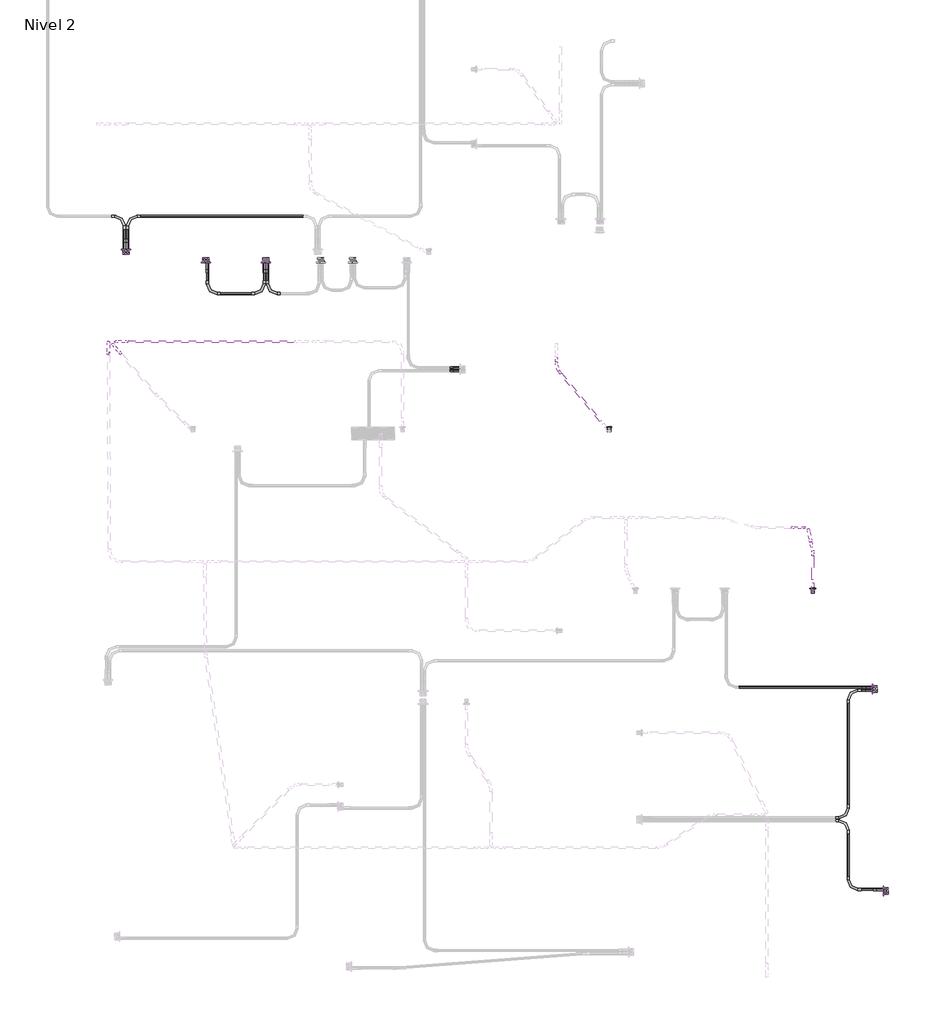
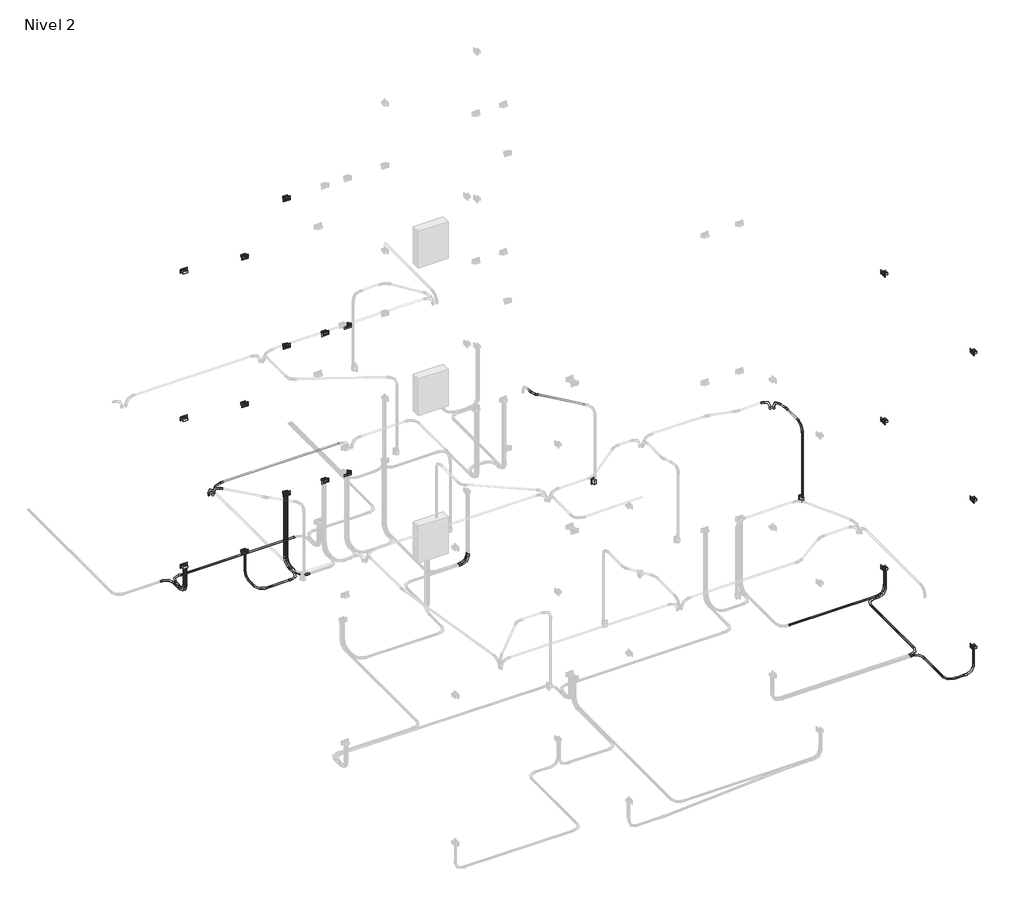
# One storey, part 5 of 10: 27 cable carrier fittings, 26 cable carrier segments, 19 proxies, 2 switching devices.
"""IFC4 building model written with IfcOpenShell, lengths in millimetres."""

from ifc_helpers import new_model, si_unit, point, frame, frame_2d, origin, place, context, project, spatial, circle_curve, trimmed, segment, composite_curve, outline, extrude, transform, mapped, element, save
from components import gfci_180f1b41, m_codo_de_tubo_extremo_liso_pvc_9da73e12, m_codo_de_tubo_extremo_liso_pvc_102f0f41, m_codo_de_tubo_extremo_liso_pvc_2c15a8ce, m_codo_de_tubo_extremo_liso_pvc_b46efc4b, switching_device_22fed34b

model = new_model("IFC4")

# Units and contexts
model_context = context("Model", 3, world=origin())
ifc_project = project(units=[si_unit("LENGTHUNIT", "METRE", prefix="MILLI")], contexts=[model_context])

# Site, building, storey
site = spatial("IfcSite", under=ifc_project)
building = spatial("IfcBuilding", under=site)
storey = spatial("IfcBuildingStorey", under=building, Name="Nivel 2", Elevation=2800.0)

# Proxies
placement = place(None, origin())
gfci_shape = gfci_180f1b41(model_context)
element("IfcBuildingElementProxy", 1, Name="Tomacorriente doble 220V : GFCI", ObjectType="Tomacorriente doble 220V : GFCI", at=placement, inside=storey, context=model_context, shape_type="MappedRepresentation", body=[
    mapped(gfci_shape, transform((212.4792616, 9125.0, 3200.0), x_axis=(0.0, 0.0, 1.0), y_axis=(1.0, 0.0, 0.0), z_axis=(0.0, 1.0, 0.0))),
])
element("IfcBuildingElementProxy", 2, Name="Tomacorriente doble 220V : GFCI", ObjectType="Tomacorriente doble 220V : GFCI", at=placement, inside=storey, context=model_context, shape_type="MappedRepresentation", body=[
    mapped(gfci_shape, transform((1163.2850556, 8975.0, 3200.0), x_axis=(0.0, 0.0, 1.0), y_axis=(-1.0, 0.0, 0.0), z_axis=(0.0, -1.0, 0.0))),
])
element("IfcBuildingElementProxy", 3, Name="Tomacorriente doble 220V : GFCI", ObjectType="Tomacorriente doble 220V : GFCI", at=placement, inside=storey, context=model_context, shape_type="MappedRepresentation", body=[
    mapped(gfci_shape, transform((1874.6885941, 8975.0, 4000.0), x_axis=(0.0, 0.0, 1.0), y_axis=(-1.0, 0.0, 0.0), z_axis=(0.0, -1.0, 0.0))),
])
element("IfcBuildingElementProxy", 4, Name="Tomacorriente doble 220V : GFCI", ObjectType="Tomacorriente doble 220V : GFCI", at=placement, inside=storey, context=model_context, shape_type="MappedRepresentation", body=[
    mapped(gfci_shape, transform((2525.6966863, 8975.0, 4000.0), x_axis=(0.0, 0.0, 1.0), y_axis=(-1.0, 0.0, 0.0), z_axis=(0.0, -1.0, 0.0))),
])
element("IfcBuildingElementProxy", 5, Name="Tomacorriente doble 220V : GFCI", ObjectType="Tomacorriente doble 220V : GFCI", at=placement, inside=storey, context=model_context, shape_type="MappedRepresentation", body=[
    mapped(gfci_shape, transform((2908.8767356, 8975.0, 4000.0), x_axis=(0.0, 0.0, 1.0), y_axis=(-1.0, 0.0, 0.0), z_axis=(0.0, -1.0, 0.0))),
])
element("IfcBuildingElementProxy", 6, Name="Tomacorriente doble 220V : GFCI", ObjectType="Tomacorriente doble 220V : GFCI", at=placement, inside=storey, context=model_context, shape_type="MappedRepresentation", body=[
    mapped(gfci_shape, transform((9085.0, 3911.8118425, 3200.0), x_axis=(0.0, 0.0, 1.0), y_axis=(0.0, 1.0, 0.0), z_axis=(-1.0, 0.0, 0.0))),
])
element("IfcBuildingElementProxy", 7, Name="Tomacorriente doble 220V : GFCI", ObjectType="Tomacorriente doble 220V : GFCI", at=placement, inside=storey, context=model_context, shape_type="MappedRepresentation", body=[
    mapped(gfci_shape, transform((9215.0, 1511.9357616, 3200.0), x_axis=(0.0, 0.0, 1.0), y_axis=(0.0, 1.0, 0.0), z_axis=(-1.0, 0.0, 0.0))),
])
element("IfcBuildingElementProxy", 8, Name="Tomacorriente doble 220V : GFCI", ObjectType="Tomacorriente doble 220V : GFCI", at=placement, inside=storey, context=model_context, shape_type="MappedRepresentation", body=[
    mapped(gfci_shape, transform((212.4792616, 9125.0, 5850.0), x_axis=(0.0, 0.0, 1.0), y_axis=(1.0, 0.0, 0.0), z_axis=(0.0, 1.0, 0.0))),
])
element("IfcBuildingElementProxy", 9, Name="Tomacorriente doble 220V : GFCI", ObjectType="Tomacorriente doble 220V : GFCI", at=placement, inside=storey, context=model_context, shape_type="MappedRepresentation", body=[
    mapped(gfci_shape, transform((1163.2850556, 8975.0, 5850.0), x_axis=(0.0, 0.0, 1.0), y_axis=(-1.0, 0.0, 0.0), z_axis=(0.0, -1.0, 0.0))),
])
element("IfcBuildingElementProxy", 10, Name="Tomacorriente doble 220V : GFCI", ObjectType="Tomacorriente doble 220V : GFCI", at=placement, inside=storey, context=model_context, shape_type="MappedRepresentation", body=[
    mapped(gfci_shape, transform((1874.6885941, 8975.0, 6650.0), x_axis=(0.0, 0.0, 1.0), y_axis=(-1.0, 0.0, 0.0), z_axis=(0.0, -1.0, 0.0))),
])
element("IfcBuildingElementProxy", 11, Name="Tomacorriente doble 220V : GFCI", ObjectType="Tomacorriente doble 220V : GFCI", at=placement, inside=storey, context=model_context, shape_type="MappedRepresentation", body=[
    mapped(gfci_shape, transform((2525.6966863, 8975.0, 6650.0), x_axis=(0.0, 0.0, 1.0), y_axis=(-1.0, 0.0, 0.0), z_axis=(0.0, -1.0, 0.0))),
])
element("IfcBuildingElementProxy", 12, Name="Tomacorriente doble 220V : GFCI", ObjectType="Tomacorriente doble 220V : GFCI", at=placement, inside=storey, context=model_context, shape_type="MappedRepresentation", body=[
    mapped(gfci_shape, transform((2908.8767356, 8975.0, 6650.0), x_axis=(0.0, 0.0, 1.0), y_axis=(-1.0, 0.0, 0.0), z_axis=(0.0, -1.0, 0.0))),
])
element("IfcBuildingElementProxy", 13, Name="Tomacorriente doble 220V : GFCI", ObjectType="Tomacorriente doble 220V : GFCI", at=placement, inside=storey, context=model_context, shape_type="MappedRepresentation", body=[
    mapped(gfci_shape, transform((9085.0, 3911.8118425, 5850.0), x_axis=(0.0, 0.0, 1.0), y_axis=(0.0, 1.0, 0.0), z_axis=(-1.0, 0.0, 0.0))),
])
element("IfcBuildingElementProxy", 14, Name="Tomacorriente doble 220V : GFCI", ObjectType="Tomacorriente doble 220V : GFCI", at=placement, inside=storey, context=model_context, shape_type="MappedRepresentation", body=[
    mapped(gfci_shape, transform((9215.0, 1511.9357616, 5850.0), x_axis=(0.0, 0.0, 1.0), y_axis=(0.0, 1.0, 0.0), z_axis=(-1.0, 0.0, 0.0))),
])
element("IfcBuildingElementProxy", 15, Name="Tomacorriente doble 220V : GFCI", ObjectType="Tomacorriente doble 220V : GFCI", at=placement, inside=storey, context=model_context, shape_type="MappedRepresentation", body=[
    mapped(gfci_shape, transform((212.4792616, 9125.0, 8500.0), x_axis=(0.0, 0.0, 1.0), y_axis=(1.0, 0.0, 0.0), z_axis=(0.0, 1.0, 0.0))),
])
element("IfcBuildingElementProxy", 16, Name="Tomacorriente doble 220V : GFCI", ObjectType="Tomacorriente doble 220V : GFCI", at=placement, inside=storey, context=model_context, shape_type="MappedRepresentation", body=[
    mapped(gfci_shape, transform((1163.2850556, 8975.0, 8500.0), x_axis=(0.0, 0.0, 1.0), y_axis=(-1.0, 0.0, 0.0), z_axis=(0.0, -1.0, 0.0))),
])
element("IfcBuildingElementProxy", 17, Name="Tomacorriente doble 220V : GFCI", ObjectType="Tomacorriente doble 220V : GFCI", at=placement, inside=storey, context=model_context, shape_type="MappedRepresentation", body=[
    mapped(gfci_shape, transform((1874.6885941, 8975.0, 9300.0), x_axis=(0.0, 0.0, 1.0), y_axis=(-1.0, 0.0, 0.0), z_axis=(0.0, -1.0, 0.0))),
])
element("IfcBuildingElementProxy", 18, Name="Tomacorriente doble 220V : GFCI", ObjectType="Tomacorriente doble 220V : GFCI", at=placement, inside=storey, context=model_context, shape_type="MappedRepresentation", body=[
    mapped(gfci_shape, transform((9085.0, 3911.8118425, 8500.0), x_axis=(0.0, 0.0, 1.0), y_axis=(0.0, 1.0, 0.0), z_axis=(-1.0, 0.0, 0.0))),
])
element("IfcBuildingElementProxy", 19, Name="Tomacorriente doble 220V : GFCI", ObjectType="Tomacorriente doble 220V : GFCI", at=placement, inside=storey, context=model_context, shape_type="MappedRepresentation", body=[
    mapped(gfci_shape, transform((9215.0, 1511.9357616, 8500.0), x_axis=(0.0, 0.0, 1.0), y_axis=(0.0, 1.0, 0.0), z_axis=(-1.0, 0.0, 0.0))),
])

# Cable carrier fittings
m_codo_de_tubo_extremo_liso_pvc_shape = m_codo_de_tubo_extremo_liso_pvc_9da73e12(model_context)
element("IfcCableCarrierFitting", 20, ObjectType="M_Codo de tubo - Extremo liso - PVC : CODO POTENCIA", at=placement, inside=storey, context=model_context, shape_type="MappedRepresentation", body=[
    mapped(m_codo_de_tubo_extremo_liso_pvc_shape, transform((194.4474418, 9095.3628882, 2730.0), x_axis=(0.0, 0.0, -1.0), y_axis=(0.0, 1.0, 0.0), z_axis=(1.0, 0.0, 0.0))),
])
element("IfcCableCarrierFitting", 21, ObjectType="M_Codo de tubo - Extremo liso - PVC : CODO POTENCIA", at=placement, inside=storey, context=model_context, shape_type="MappedRepresentation", body=[
    mapped(m_codo_de_tubo_extremo_liso_pvc_shape, transform((230.5110814, 9523.463856, 2730.0), x_axis=(-1.0, 0.0, 0.0), y_axis=(0.0, -1.0, 0.0), z_axis=(0.0, 0.0, 1.0))),
])
element("IfcCableCarrierFitting", 22, ObjectType="M_Codo de tubo - Extremo liso - PVC : CODO POTENCIA", at=placement, inside=storey, context=model_context, shape_type="MappedRepresentation", body=[
    mapped(m_codo_de_tubo_extremo_liso_pvc_shape, transform((230.5110814, 9095.3628882, 2730.0), x_axis=(0.0, 0.0, -1.0), y_axis=(0.0, 1.0, 0.0), z_axis=(1.0, 0.0, 0.0))),
])
element("IfcCableCarrierFitting", 23, ObjectType="M_Codo de tubo - Extremo liso - PVC : CODO POTENCIA", at=placement, inside=storey, context=model_context, shape_type="MappedRepresentation", body=[
    mapped(m_codo_de_tubo_extremo_liso_pvc_shape, transform((194.4474418, 9523.463856, 2730.0), x_axis=(0.0, 1.0, 0.0), y_axis=(-1.0, 0.0, 0.0), z_axis=(0.0, 0.0, 1.0))),
])
element("IfcCableCarrierFitting", 24, ObjectType="M_Codo de tubo - Extremo liso - PVC : CODO POTENCIA", at=placement, inside=storey, context=model_context, shape_type="MappedRepresentation", body=[
    mapped(m_codo_de_tubo_extremo_liso_pvc_shape, transform((1181.3168754, 9004.6371118, 2730.0), x_axis=(0.0, 0.0, -1.0), y_axis=(0.0, -1.0, 0.0), z_axis=(-1.0, 0.0, 0.0))),
])
element("IfcCableCarrierFitting", 25, ObjectType="M_Codo de tubo - Extremo liso - PVC : CODO POTENCIA", at=placement, inside=storey, context=model_context, shape_type="MappedRepresentation", body=[
    mapped(m_codo_de_tubo_extremo_liso_pvc_shape, transform((1856.6567743, 9004.6371118, 2730.0), x_axis=(0.0, 0.0, -1.0), y_axis=(0.0, -1.0, 0.0), z_axis=(-1.0, 0.0, 0.0))),
])
element("IfcCableCarrierFitting", 26, ObjectType="M_Codo de tubo - Extremo liso - PVC : CODO POTENCIA", at=placement, inside=storey, context=model_context, shape_type="MappedRepresentation", body=[
    mapped(m_codo_de_tubo_extremo_liso_pvc_shape, transform((1892.720414, 9004.6371118, 2730.0), x_axis=(0.0, 0.0, -1.0), y_axis=(0.0, -1.0, 0.0), z_axis=(-1.0, 0.0, 0.0))),
])
element("IfcCableCarrierFitting", 27, ObjectType="M_Codo de tubo - Extremo liso - PVC : CODO POTENCIA", at=placement, inside=storey, context=model_context, shape_type="MappedRepresentation", body=[
    mapped(m_codo_de_tubo_extremo_liso_pvc_shape, transform((1856.6567743, 8604.6371118, 2730.0), x_axis=(1.0, 0.0, 0.0), y_axis=(0.0, 1.0, 0.0), z_axis=(0.0, 0.0, 1.0))),
])
element("IfcCableCarrierFitting", 28, ObjectType="M_Codo de tubo - Extremo liso - PVC : CODO POTENCIA", at=placement, inside=storey, context=model_context, shape_type="MappedRepresentation", body=[
    mapped(m_codo_de_tubo_extremo_liso_pvc_shape, transform((1181.3168754, 8604.6371118, 2730.0), x_axis=(0.0, -1.0, 0.0), y_axis=(1.0, 0.0, 0.0), z_axis=(0.0, 0.0, 1.0))),
])
element("IfcCableCarrierFitting", 29, ObjectType="M_Codo de tubo - Extremo liso - PVC : CODO POTENCIA", at=placement, inside=storey, context=model_context, shape_type="MappedRepresentation", body=[
    mapped(m_codo_de_tubo_extremo_liso_pvc_shape, transform((4214.6371118, 7687.1296392, 2730.0), x_axis=(0.0, 0.0, -1.0), y_axis=(-1.0, 0.0, 0.0), z_axis=(0.0, 1.0, 0.0))),
])
element("IfcCableCarrierFitting", 30, ObjectType="M_Codo de tubo - Extremo liso - PVC : CODO POTENCIA", at=placement, inside=storey, context=model_context, shape_type="MappedRepresentation", body=[
    mapped(m_codo_de_tubo_extremo_liso_pvc_shape, transform((1892.720414, 8604.6371118, 2730.0), x_axis=(0.0, -1.0, 0.0), y_axis=(1.0, 0.0, 0.0), z_axis=(0.0, 0.0, 1.0))),
])
element("IfcCableCarrierFitting", 31, ObjectType="M_Codo de tubo - Extremo liso - PVC : CODO POTENCIA", at=placement, inside=storey, context=model_context, shape_type="MappedRepresentation", body=[
    mapped(m_codo_de_tubo_extremo_liso_pvc_shape, transform((4214.6371118, 7723.1932788, 2730.0), x_axis=(0.0, 0.0, -1.0), y_axis=(-1.0, 0.0, 0.0), z_axis=(0.0, 1.0, 0.0))),
])
element("IfcCableCarrierFitting", 32, ObjectType="M_Codo de tubo - Extremo liso - PVC : CODO POTENCIA", at=placement, inside=storey, context=model_context, shape_type="MappedRepresentation", body=[
    mapped(m_codo_de_tubo_extremo_liso_pvc_shape, transform((9244.6371118, 1529.9675815, 2730.0), x_axis=(0.0, 0.0, -1.0), y_axis=(-1.0, 0.0, 0.0), z_axis=(0.0, 1.0, 0.0))),
])
element("IfcCableCarrierFitting", 33, ObjectType="M_Codo de tubo - Extremo liso - PVC : CODO POTENCIA", at=placement, inside=storey, context=model_context, shape_type="MappedRepresentation", body=[
    mapped(m_codo_de_tubo_extremo_liso_pvc_shape, transform((9114.6371118, 3893.7800226, 2730.0), x_axis=(0.0, 0.0, -1.0), y_axis=(-1.0, 0.0, 0.0), z_axis=(0.0, 1.0, 0.0))),
])
element("IfcCableCarrierFitting", 34, ObjectType="M_Codo de tubo - Extremo liso - PVC : CODO POTENCIA", at=placement, inside=storey, context=model_context, shape_type="MappedRepresentation", body=[
    mapped(m_codo_de_tubo_extremo_liso_pvc_shape, transform((8794.6371118, 2344.5282763, 2730.0), x_axis=(0.0, 1.0, 0.0), y_axis=(-1.0, 0.0, 0.0), z_axis=(0.0, 0.0, 1.0))),
])
element("IfcCableCarrierFitting", 35, ObjectType="M_Codo de tubo - Extremo liso - PVC : CODO POTENCIA", at=placement, inside=storey, context=model_context, shape_type="MappedRepresentation", body=[
    mapped(m_codo_de_tubo_extremo_liso_pvc_shape, transform((8794.6371118, 1529.9675815, 2730.0), x_axis=(0.0, -1.0, 0.0), y_axis=(1.0, 0.0, 0.0), z_axis=(0.0, 0.0, 1.0))),
])
element("IfcCableCarrierFitting", 36, ObjectType="M_Codo de tubo - Extremo liso - PVC : CODO POTENCIA", at=placement, inside=storey, context=model_context, shape_type="MappedRepresentation", body=[
    mapped(m_codo_de_tubo_extremo_liso_pvc_shape, transform((8794.6371118, 3893.7800226, 2730.0), x_axis=(-1.0, 0.0, 0.0), y_axis=(0.0, -1.0, 0.0), z_axis=(0.0, 0.0, 1.0))),
])
element("IfcCableCarrierFitting", 37, ObjectType="M_Codo de tubo - Extremo liso - PVC : CODO POTENCIA", at=placement, inside=storey, context=model_context, shape_type="MappedRepresentation", body=[
    mapped(m_codo_de_tubo_extremo_liso_pvc_shape, transform((8794.6371118, 2380.5919159, 2730.0), x_axis=(1.0, 0.0, 0.0), y_axis=(0.0, 1.0, 0.0), z_axis=(0.0, 0.0, 1.0))),
])
element("IfcCableCarrierFitting", 38, ObjectType="M_Codo de tubo - Extremo liso - PVC : CODO POTENCIA", at=placement, inside=storey, context=model_context, shape_type="MappedRepresentation", body=[
    mapped(m_codo_de_tubo_extremo_liso_pvc_shape, transform((9114.6371118, 3929.8436623, 2730.0), x_axis=(0.0, 0.0, -1.0), y_axis=(-1.0, 0.0, 0.0), z_axis=(0.0, 1.0, 0.0))),
])
element("IfcCableCarrierFitting", 39, ObjectType="M_Codo de tubo - Extremo liso - PVC : CODO ILUMINACION", at=placement, inside=storey, context=model_context, shape_type="MappedRepresentation", body=[
    mapped(m_codo_de_tubo_extremo_liso_pvc_shape, transform((88.3958853, 8034.5901689, 5350.0), x_axis=(-1.0, 0.0, 0.0), y_axis=(0.0, 0.0, -1.0), z_axis=(0.0, -1.0, 0.0))),
])
element("IfcCableCarrierFitting", 40, ObjectType="M_Codo de tubo - Extremo liso - PVC : CODO ILUMINACION", at=placement, inside=storey, context=model_context, shape_type="MappedRepresentation", body=[
    mapped(m_codo_de_tubo_extremo_liso_pvc_shape, transform((8316.6972499, 5804.4592835, 5350.0), x_axis=(-0.2079116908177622, 0.978147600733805, 0.0), y_axis=(0.0, 0.0, -1.0), z_axis=(-0.978147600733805, -0.2079116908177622, 0.0))),
])
element("IfcCableCarrierFitting", 41, ObjectType="M_Codo de tubo - Extremo liso - PVC : CODO ILUMINACION", at=placement, inside=storey, context=model_context, shape_type="MappedRepresentation", body=[
    mapped(m_codo_de_tubo_extremo_liso_pvc_shape, transform((8372.2907497, 5056.8611243, 5350.0), x_axis=(0.0, 0.0, 1.0), y_axis=(0.0, 1.0, 0.0), z_axis=(-1.0, 0.0, 0.0))),
])
m_codo_de_tubo_extremo_liso_pvc_2_shape = m_codo_de_tubo_extremo_liso_pvc_102f0f41(model_context)
element("IfcCableCarrierFitting", 42, ObjectType="M_Codo de tubo - Extremo liso - PVC : CODO ILUMINACION", at=placement, inside=storey, context=model_context, shape_type="MappedRepresentation", body=[
    mapped(m_codo_de_tubo_extremo_liso_pvc_2_shape, transform((8269.3235905, 5825.8353075, 5350.0), x_axis=(1.0, 0.0, 0.0), y_axis=(0.0, 0.0, 1.0), z_axis=(0.0, -1.0, 0.0))),
])
element("IfcCableCarrierFitting", 43, ObjectType="M_Codo de tubo - Extremo liso - PVC : CODO ILUMINACION", at=placement, inside=storey, context=model_context, shape_type="MappedRepresentation", body=[
    mapped(m_codo_de_tubo_extremo_liso_pvc_2_shape, transform((54.7290552, 8003.7690108, 5350.0), x_axis=(-0.6458247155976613, 0.7634857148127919, 0.0), y_axis=(0.0, 0.0, 1.0), z_axis=(0.7634857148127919, 0.6458247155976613, 0.0))),
])
element("IfcCableCarrierFitting", 44, ObjectType="M_Codo de tubo - Extremo liso - PVC : CODO ILUMINACION", at=placement, inside=storey, context=model_context, shape_type="MappedRepresentation", body=[
    mapped(m_codo_de_tubo_extremo_liso_pvc_2_shape, transform((4.5289809, 8029.5330199, 5350.0), x_axis=(-0.004558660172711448, 0.9999896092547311, 0.0), y_axis=(0.0, 0.0, 1.0000000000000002), z_axis=(0.9999896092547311, 0.004558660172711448, 0.0))),
])
m_codo_de_tubo_extremo_liso_pvc_3_shape = m_codo_de_tubo_extremo_liso_pvc_2c15a8ce(model_context)
element("IfcCableCarrierFitting", 45, ObjectType="M_Codo de tubo - Extremo liso - PVC : CODO ILUMINACION", at=placement, inside=storey, context=model_context, shape_type="MappedRepresentation", body=[
    mapped(m_codo_de_tubo_extremo_liso_pvc_3_shape, transform((8372.2907497, 5542.9124303, 5350.0), x_axis=(0.0, 1.0, 0.0), y_axis=(-1.0, 0.0, 0.0), z_axis=(0.0, 0.0, 1.0))),
])
m_codo_de_tubo_extremo_liso_pvc_4_shape = m_codo_de_tubo_extremo_liso_pvc_b46efc4b(model_context)
element("IfcCableCarrierFitting", 46, ObjectType="M_Codo de tubo - Extremo liso - PVC : CODO ILUMINACION", at=placement, inside=storey, context=model_context, shape_type="MappedRepresentation", body=[
    mapped(m_codo_de_tubo_extremo_liso_pvc_4_shape, transform((5326.8335186, 7717.3836388, 5350.0), x_axis=(0.0, -1.0, 0.0), y_axis=(1.0, 0.0, 0.0), z_axis=(0.0, 0.0, 1.0))),
])

# Cable carrier segments
element("IfcCableCarrierSegment", 47, ObjectType="PVC-SEL, POTENCIA", at=placement, inside=storey, context=model_context, shape_type="SweptSolid", body=[
    extrude(outline(composite_curve([segment(trimmed(circle_curve(frame_2d((2730.0, 230.5110814)), 11.71), [point((2730.0, 218.8010814))], [point((2718.29, 230.5110814))], False, "CARTESIAN"), True, "CONTINUOUS"), segment(trimmed(circle_curve(frame_2d((2730.0, 230.5110814)), 11.71), [point((2718.29, 230.5110814))], [point((2730.0, 242.2210814))], False, "CARTESIAN"), True, "CONTINUOUS"), segment(trimmed(circle_curve(frame_2d((2730.0, 230.5110814)), 11.71), [point((2730.0, 242.2210814))], [point((2741.71, 230.5110814))], False, "CARTESIAN"), True, "CONTINUOUS"), segment(trimmed(circle_curve(frame_2d((2730.0, 230.5110814)), 11.71), [point((2741.71, 230.5110814))], [point((2730.0, 218.8010814))], False, "CARTESIAN"), True, "CONTINUOUS")], self_intersect=False)), frame((0.0, 9247.7628882, 0.0), z_axis=(0.0, 1.0, 0.0), x_axis=(0.0, 0.0, 1.0)), (0.0, 0.0, 1.0), 123.3009678),
])
element("IfcCableCarrierSegment", 48, ObjectType="PVC-SEL, POTENCIA", at=placement, inside=storey, context=model_context, shape_type="SweptSolid", body=[
    extrude(outline(composite_curve([segment(trimmed(circle_curve(frame_2d((230.5110814, 9095.3628882)), 11.71), [point((242.2210814, 9095.3628882))], [point((230.5110814, 9083.6528882))], False, "CARTESIAN"), True, "CONTINUOUS"), segment(trimmed(circle_curve(frame_2d((230.5110814, 9095.3628882)), 11.71), [point((230.5110814, 9083.6528882))], [point((218.8010814, 9095.3628882))], False, "CARTESIAN"), True, "CONTINUOUS"), segment(trimmed(circle_curve(frame_2d((230.5110814, 9095.3628882)), 11.71), [point((218.8010814, 9095.3628882))], [point((230.5110814, 9107.0728882))], False, "CARTESIAN"), True, "CONTINUOUS"), segment(trimmed(circle_curve(frame_2d((230.5110814, 9095.3628882)), 11.71), [point((230.5110814, 9107.0728882))], [point((242.2210814, 9095.3628882))], False, "CARTESIAN"), True, "CONTINUOUS")], self_intersect=False)), frame((0.0, 0.0, 2882.4), z_axis=(0.0, 0.0, 1.0), x_axis=(1.0, 0.0, 0.0)), (0.0, 0.0, 1.0), 297.3020537),
])
element("IfcCableCarrierSegment", 49, ObjectType="PVC-SEL, POTENCIA", at=placement, inside=storey, context=model_context, shape_type="SweptSolid", body=[
    extrude(outline(composite_curve([segment(trimmed(circle_curve(frame_2d((2730.0, 194.4474418)), 11.71), [point((2730.0, 206.1574418))], [point((2741.71, 194.4474418))], False, "CARTESIAN"), True, "CONTINUOUS"), segment(trimmed(circle_curve(frame_2d((2730.0, 194.4474418)), 11.71), [point((2741.71, 194.4474418))], [point((2730.0, 182.7374418))], False, "CARTESIAN"), True, "CONTINUOUS"), segment(trimmed(circle_curve(frame_2d((2730.0, 194.4474418)), 11.71), [point((2730.0, 182.7374418))], [point((2718.29, 194.4474418))], False, "CARTESIAN"), True, "CONTINUOUS"), segment(trimmed(circle_curve(frame_2d((2730.0, 194.4474418)), 11.71), [point((2718.29, 194.4474418))], [point((2730.0, 206.1574418))], False, "CARTESIAN"), True, "CONTINUOUS")], self_intersect=False)), frame((0.0, 9247.7628882, 0.0), z_axis=(0.0, 1.0, 0.0), x_axis=(0.0, 0.0, 1.0)), (0.0, 0.0, 1.0), 123.3009678),
])
element("IfcCableCarrierSegment", 50, ObjectType="PVC-SEL, POTENCIA", at=placement, inside=storey, context=model_context, shape_type="SweptSolid", body=[
    extrude(outline(composite_curve([segment(trimmed(circle_curve(frame_2d((194.4474418, 9095.3628882)), 11.71), [point((206.1574418, 9095.3628882))], [point((194.4474418, 9083.6528882))], False, "CARTESIAN"), True, "CONTINUOUS"), segment(trimmed(circle_curve(frame_2d((194.4474418, 9095.3628882)), 11.71), [point((194.4474418, 9083.6528882))], [point((182.7374418, 9095.3628882))], False, "CARTESIAN"), True, "CONTINUOUS"), segment(trimmed(circle_curve(frame_2d((194.4474418, 9095.3628882)), 11.71), [point((182.7374418, 9095.3628882))], [point((194.4474418, 9107.0728882))], False, "CARTESIAN"), True, "CONTINUOUS"), segment(trimmed(circle_curve(frame_2d((194.4474418, 9095.3628882)), 11.71), [point((194.4474418, 9107.0728882))], [point((206.1574418, 9095.3628882))], False, "CARTESIAN"), True, "CONTINUOUS")], self_intersect=False)), frame((0.0, 0.0, 2882.4), z_axis=(0.0, 0.0, 1.0), x_axis=(1.0, 0.0, 0.0)), (0.0, 0.0, 1.0), 297.3020537),
])
element("IfcCableCarrierSegment", 51, ObjectType="PVC-SEL, POTENCIA", at=placement, inside=storey, context=model_context, shape_type="SweptSolid", body=[
    extrude(outline(composite_curve([segment(trimmed(circle_curve(frame_2d((9523.463856, 2730.0)), 11.71), [point((9535.173856, 2730.0))], [point((9523.463856, 2718.29))], False, "CARTESIAN"), True, "CONTINUOUS"), segment(trimmed(circle_curve(frame_2d((9523.463856, 2730.0)), 11.71), [point((9523.463856, 2718.29))], [point((9511.753856, 2730.0))], False, "CARTESIAN"), True, "CONTINUOUS"), segment(trimmed(circle_curve(frame_2d((9523.463856, 2730.0)), 11.71), [point((9511.753856, 2730.0))], [point((9523.463856, 2741.71))], False, "CARTESIAN"), True, "CONTINUOUS"), segment(trimmed(circle_curve(frame_2d((9523.463856, 2730.0)), 11.71), [point((9523.463856, 2741.71))], [point((9535.173856, 2730.0))], False, "CARTESIAN"), True, "CONTINUOUS")], self_intersect=False)), frame((382.9110814, 0.0, 0.0), z_axis=(1.0, 0.0, 0.0), x_axis=(0.0, 1.0, 0.0)), (0.0, 0.0, 1.0), 1936.6176627),
])
element("IfcCableCarrierSegment", 52, ObjectType="PVC-SEL, POTENCIA", at=placement, inside=storey, context=model_context, shape_type="SweptSolid", body=[
    extrude(outline(composite_curve([segment(trimmed(circle_curve(frame_2d((2730.0, 1181.3168754)), 11.71), [point((2730.0, 1169.6068754))], [point((2718.29, 1181.3168754))], False, "CARTESIAN"), True, "CONTINUOUS"), segment(trimmed(circle_curve(frame_2d((2730.0, 1181.3168754)), 11.71), [point((2718.29, 1181.3168754))], [point((2730.0, 1193.0268754))], False, "CARTESIAN"), True, "CONTINUOUS"), segment(trimmed(circle_curve(frame_2d((2730.0, 1181.3168754)), 11.71), [point((2730.0, 1193.0268754))], [point((2741.71, 1181.3168754))], False, "CARTESIAN"), True, "CONTINUOUS"), segment(trimmed(circle_curve(frame_2d((2730.0, 1181.3168754)), 11.71), [point((2741.71, 1181.3168754))], [point((2730.0, 1169.6068754))], False, "CARTESIAN"), True, "CONTINUOUS")], self_intersect=False)), frame((0.0, 8757.0371118, 0.0), z_axis=(0.0, 1.0, 0.0), x_axis=(0.0, 0.0, 1.0)), (0.0, 0.0, 1.0), 95.2),
])
element("IfcCableCarrierSegment", 53, ObjectType="PVC-SEL, POTENCIA", at=placement, inside=storey, context=model_context, shape_type="SweptSolid", body=[
    extrude(outline(composite_curve([segment(trimmed(circle_curve(frame_2d((1181.3168754, 9004.6371118)), 11.71), [point((1193.0268754, 9004.6371118))], [point((1181.3168754, 8992.9271118))], False, "CARTESIAN"), True, "CONTINUOUS"), segment(trimmed(circle_curve(frame_2d((1181.3168754, 9004.6371118)), 11.71), [point((1181.3168754, 8992.9271118))], [point((1169.6068754, 9004.6371118))], False, "CARTESIAN"), True, "CONTINUOUS"), segment(trimmed(circle_curve(frame_2d((1181.3168754, 9004.6371118)), 11.71), [point((1169.6068754, 9004.6371118))], [point((1181.3168754, 9016.3471118))], False, "CARTESIAN"), True, "CONTINUOUS"), segment(trimmed(circle_curve(frame_2d((1181.3168754, 9004.6371118)), 11.71), [point((1181.3168754, 9016.3471118))], [point((1193.0268754, 9004.6371118))], False, "CARTESIAN"), True, "CONTINUOUS")], self_intersect=False)), frame((0.0, 0.0, 2882.4), z_axis=(0.0, 0.0, 1.0), x_axis=(1.0, 0.0, 0.0)), (0.0, 0.0, 1.0), 297.3020537),
])
element("IfcCableCarrierSegment", 54, ObjectType="PVC-SEL, POTENCIA", at=placement, inside=storey, context=model_context, shape_type="SweptSolid", body=[
    extrude(outline(composite_curve([segment(trimmed(circle_curve(frame_2d((8604.6371118, 2730.0)), 11.71), [point((8616.3471118, 2730.0))], [point((8604.6371118, 2718.29))], False, "CARTESIAN"), True, "CONTINUOUS"), segment(trimmed(circle_curve(frame_2d((8604.6371118, 2730.0)), 11.71), [point((8604.6371118, 2718.29))], [point((8592.9271118, 2730.0))], False, "CARTESIAN"), True, "CONTINUOUS"), segment(trimmed(circle_curve(frame_2d((8604.6371118, 2730.0)), 11.71), [point((8592.9271118, 2730.0))], [point((8604.6371118, 2741.71))], False, "CARTESIAN"), True, "CONTINUOUS"), segment(trimmed(circle_curve(frame_2d((8604.6371118, 2730.0)), 11.71), [point((8604.6371118, 2741.71))], [point((8616.3471118, 2730.0))], False, "CARTESIAN"), True, "CONTINUOUS")], self_intersect=False)), frame((1333.7168754, 0.0, 0.0), z_axis=(1.0, 0.0, 0.0), x_axis=(0.0, 1.0, 0.0)), (0.0, 0.0, 1.0), 370.5398989),
])
element("IfcCableCarrierSegment", 55, ObjectType="PVC-SEL, POTENCIA", at=placement, inside=storey, context=model_context, shape_type="SweptSolid", body=[
    extrude(outline(composite_curve([segment(trimmed(circle_curve(frame_2d((2730.0, 1856.6567743)), 11.71), [point((2730.0, 1844.9467743))], [point((2718.29, 1856.6567743))], False, "CARTESIAN"), True, "CONTINUOUS"), segment(trimmed(circle_curve(frame_2d((2730.0, 1856.6567743)), 11.71), [point((2718.29, 1856.6567743))], [point((2730.0, 1868.3667743))], False, "CARTESIAN"), True, "CONTINUOUS"), segment(trimmed(circle_curve(frame_2d((2730.0, 1856.6567743)), 11.71), [point((2730.0, 1868.3667743))], [point((2741.71, 1856.6567743))], False, "CARTESIAN"), True, "CONTINUOUS"), segment(trimmed(circle_curve(frame_2d((2730.0, 1856.6567743)), 11.71), [point((2741.71, 1856.6567743))], [point((2730.0, 1844.9467743))], False, "CARTESIAN"), True, "CONTINUOUS")], self_intersect=False)), frame((0.0, 8757.0371118, 0.0), z_axis=(0.0, 1.0, 0.0), x_axis=(0.0, 0.0, 1.0)), (0.0, 0.0, 1.0), 95.2),
])
element("IfcCableCarrierSegment", 56, ObjectType="PVC-SEL, POTENCIA", at=placement, inside=storey, context=model_context, shape_type="SweptSolid", body=[
    extrude(outline(composite_curve([segment(trimmed(circle_curve(frame_2d((1856.6567743, 9004.6371118)), 11.71), [point((1868.3667743, 9004.6371118))], [point((1856.6567743, 8992.9271118))], False, "CARTESIAN"), True, "CONTINUOUS"), segment(trimmed(circle_curve(frame_2d((1856.6567743, 9004.6371118)), 11.71), [point((1856.6567743, 8992.9271118))], [point((1844.9467743, 9004.6371118))], False, "CARTESIAN"), True, "CONTINUOUS"), segment(trimmed(circle_curve(frame_2d((1856.6567743, 9004.6371118)), 11.71), [point((1844.9467743, 9004.6371118))], [point((1856.6567743, 9016.3471118))], False, "CARTESIAN"), True, "CONTINUOUS"), segment(trimmed(circle_curve(frame_2d((1856.6567743, 9004.6371118)), 11.71), [point((1856.6567743, 9016.3471118))], [point((1868.3667743, 9004.6371118))], False, "CARTESIAN"), True, "CONTINUOUS")], self_intersect=False)), frame((0.0, 0.0, 2882.4), z_axis=(0.0, 0.0, 1.0), x_axis=(1.0, 0.0, 0.0)), (0.0, 0.0, 1.0), 1097.3020537),
])
element("IfcCableCarrierSegment", 57, ObjectType="PVC-SEL, POTENCIA", at=placement, inside=storey, context=model_context, shape_type="SweptSolid", body=[
    extrude(outline(composite_curve([segment(trimmed(circle_curve(frame_2d((2730.0, 1892.720414)), 11.71), [point((2730.0, 1881.010414))], [point((2718.29, 1892.720414))], False, "CARTESIAN"), True, "CONTINUOUS"), segment(trimmed(circle_curve(frame_2d((2730.0, 1892.720414)), 11.71), [point((2718.29, 1892.720414))], [point((2730.0, 1904.430414))], False, "CARTESIAN"), True, "CONTINUOUS"), segment(trimmed(circle_curve(frame_2d((2730.0, 1892.720414)), 11.71), [point((2730.0, 1904.430414))], [point((2741.71, 1892.720414))], False, "CARTESIAN"), True, "CONTINUOUS"), segment(trimmed(circle_curve(frame_2d((2730.0, 1892.720414)), 11.71), [point((2741.71, 1892.720414))], [point((2730.0, 1881.010414))], False, "CARTESIAN"), True, "CONTINUOUS")], self_intersect=False)), frame((0.0, 8757.0371118, 0.0), z_axis=(0.0, 1.0, 0.0), x_axis=(0.0, 0.0, 1.0)), (0.0, 0.0, 1.0), 95.2),
])
element("IfcCableCarrierSegment", 58, ObjectType="PVC-SEL, POTENCIA", at=placement, inside=storey, context=model_context, shape_type="SweptSolid", body=[
    extrude(outline(composite_curve([segment(trimmed(circle_curve(frame_2d((1892.720414, 9004.6371118)), 11.71), [point((1904.430414, 9004.6371118))], [point((1892.720414, 8992.9271118))], False, "CARTESIAN"), True, "CONTINUOUS"), segment(trimmed(circle_curve(frame_2d((1892.720414, 9004.6371118)), 11.71), [point((1892.720414, 8992.9271118))], [point((1881.010414, 9004.6371118))], False, "CARTESIAN"), True, "CONTINUOUS"), segment(trimmed(circle_curve(frame_2d((1892.720414, 9004.6371118)), 11.71), [point((1881.010414, 9004.6371118))], [point((1892.720414, 9016.3471118))], False, "CARTESIAN"), True, "CONTINUOUS"), segment(trimmed(circle_curve(frame_2d((1892.720414, 9004.6371118)), 11.71), [point((1892.720414, 9016.3471118))], [point((1904.430414, 9004.6371118))], False, "CARTESIAN"), True, "CONTINUOUS")], self_intersect=False)), frame((0.0, 0.0, 2882.4), z_axis=(0.0, 0.0, 1.0), x_axis=(1.0, 0.0, 0.0)), (0.0, 0.0, 1.0), 1097.3020537),
])
element("IfcCableCarrierSegment", 59, ObjectType="PVC-SEL, POTENCIA", at=placement, inside=storey, context=model_context, shape_type="SweptSolid", body=[
    extrude(outline(composite_curve([segment(trimmed(circle_curve(frame_2d((1529.9675815, 2730.0)), 11.71), [point((1541.6775815, 2730.0))], [point((1529.9675815, 2718.29))], False, "CARTESIAN"), True, "CONTINUOUS"), segment(trimmed(circle_curve(frame_2d((1529.9675815, 2730.0)), 11.71), [point((1529.9675815, 2718.29))], [point((1518.2575815, 2730.0))], False, "CARTESIAN"), True, "CONTINUOUS"), segment(trimmed(circle_curve(frame_2d((1529.9675815, 2730.0)), 11.71), [point((1518.2575815, 2730.0))], [point((1529.9675815, 2741.71))], False, "CARTESIAN"), True, "CONTINUOUS"), segment(trimmed(circle_curve(frame_2d((1529.9675815, 2730.0)), 11.71), [point((1529.9675815, 2741.71))], [point((1541.6775815, 2730.0))], False, "CARTESIAN"), True, "CONTINUOUS")], self_intersect=False)), frame((8947.0371118, 0.0, 0.0), z_axis=(1.0, 0.0, 0.0), x_axis=(0.0, 1.0, 0.0)), (0.0, 0.0, 1.0), 145.2),
])
element("IfcCableCarrierSegment", 60, ObjectType="PVC-SEL, POTENCIA", at=placement, inside=storey, context=model_context, shape_type="SweptSolid", body=[
    extrude(outline(composite_curve([segment(trimmed(circle_curve(frame_2d((9244.6371118, 1529.9675815)), 11.71), [point((9256.3471118, 1529.9675815))], [point((9244.6371118, 1518.2575815))], False, "CARTESIAN"), True, "CONTINUOUS"), segment(trimmed(circle_curve(frame_2d((9244.6371118, 1529.9675815)), 11.71), [point((9244.6371118, 1518.2575815))], [point((9232.9271118, 1529.9675815))], False, "CARTESIAN"), True, "CONTINUOUS"), segment(trimmed(circle_curve(frame_2d((9244.6371118, 1529.9675815)), 11.71), [point((9232.9271118, 1529.9675815))], [point((9244.6371118, 1541.6775815))], False, "CARTESIAN"), True, "CONTINUOUS"), segment(trimmed(circle_curve(frame_2d((9244.6371118, 1529.9675815)), 11.71), [point((9244.6371118, 1541.6775815))], [point((9256.3471118, 1529.9675815))], False, "CARTESIAN"), True, "CONTINUOUS")], self_intersect=False)), frame((0.0, 0.0, 2882.4), z_axis=(0.0, 0.0, 1.0), x_axis=(1.0, 0.0, 0.0)), (0.0, 0.0, 1.0), 297.3020537),
])
element("IfcCableCarrierSegment", 61, ObjectType="PVC-SEL, POTENCIA", at=placement, inside=storey, context=model_context, shape_type="SweptSolid", body=[
    extrude(outline(composite_curve([segment(trimmed(circle_curve(frame_2d((3929.8436623, 2730.0)), 11.71), [point((3918.1336623, 2730.0))], [point((3929.8436623, 2741.71))], False, "CARTESIAN"), True, "CONTINUOUS"), segment(trimmed(circle_curve(frame_2d((3929.8436623, 2730.0)), 11.71), [point((3929.8436623, 2741.71))], [point((3941.5536623, 2730.0))], False, "CARTESIAN"), True, "CONTINUOUS"), segment(trimmed(circle_curve(frame_2d((3929.8436623, 2730.0)), 11.71), [point((3941.5536623, 2730.0))], [point((3929.8436623, 2718.29))], False, "CARTESIAN"), True, "CONTINUOUS"), segment(trimmed(circle_curve(frame_2d((3929.8436623, 2730.0)), 11.71), [point((3929.8436623, 2718.29))], [point((3918.1336623, 2730.0))], False, "CARTESIAN"), True, "CONTINUOUS")], self_intersect=False)), frame((7495.5290455, 0.0, 0.0), z_axis=(1.0, 0.0, 0.0), x_axis=(0.0, 1.0, 0.0)), (0.0, 0.0, 1.0), 1466.7080662),
])
element("IfcCableCarrierSegment", 62, ObjectType="PVC-SEL, POTENCIA", at=placement, inside=storey, context=model_context, shape_type="SweptSolid", body=[
    extrude(outline(composite_curve([segment(trimmed(circle_curve(frame_2d((9114.6371118, 3929.8436623)), 11.71), [point((9126.3471118, 3929.8436623))], [point((9114.6371118, 3918.1336623))], False, "CARTESIAN"), True, "CONTINUOUS"), segment(trimmed(circle_curve(frame_2d((9114.6371118, 3929.8436623)), 11.71), [point((9114.6371118, 3918.1336623))], [point((9102.9271118, 3929.8436623))], False, "CARTESIAN"), True, "CONTINUOUS"), segment(trimmed(circle_curve(frame_2d((9114.6371118, 3929.8436623)), 11.71), [point((9102.9271118, 3929.8436623))], [point((9114.6371118, 3941.5536623))], False, "CARTESIAN"), True, "CONTINUOUS"), segment(trimmed(circle_curve(frame_2d((9114.6371118, 3929.8436623)), 11.71), [point((9114.6371118, 3941.5536623))], [point((9126.3471118, 3929.8436623))], False, "CARTESIAN"), True, "CONTINUOUS")], self_intersect=False)), frame((0.0, 0.0, 2882.4), z_axis=(0.0, 0.0, 1.0), x_axis=(1.0, 0.0, 0.0)), (0.0, 0.0, 1.0), 297.3020537),
])
element("IfcCableCarrierSegment", 63, ObjectType="PVC-SEL, POTENCIA", at=placement, inside=storey, context=model_context, shape_type="SweptSolid", body=[
    extrude(outline(composite_curve([segment(trimmed(circle_curve(frame_2d((3893.7800226, 2730.0)), 11.71), [point((3905.4900226, 2730.0))], [point((3893.7800226, 2718.29))], False, "CARTESIAN"), True, "CONTINUOUS"), segment(trimmed(circle_curve(frame_2d((3893.7800226, 2730.0)), 11.71), [point((3893.7800226, 2718.29))], [point((3882.0700226, 2730.0))], False, "CARTESIAN"), True, "CONTINUOUS"), segment(trimmed(circle_curve(frame_2d((3893.7800226, 2730.0)), 11.71), [point((3882.0700226, 2730.0))], [point((3893.7800226, 2741.71))], False, "CARTESIAN"), True, "CONTINUOUS"), segment(trimmed(circle_curve(frame_2d((3893.7800226, 2730.0)), 11.71), [point((3893.7800226, 2741.71))], [point((3905.4900226, 2730.0))], False, "CARTESIAN"), True, "CONTINUOUS")], self_intersect=False)), frame((8947.0371118, 0.0, 0.0), z_axis=(1.0, 0.0, 0.0), x_axis=(0.0, 1.0, 0.0)), (0.0, 0.0, 1.0), 15.2),
])
element("IfcCableCarrierSegment", 64, ObjectType="PVC-SEL, POTENCIA", at=placement, inside=storey, context=model_context, shape_type="SweptSolid", body=[
    extrude(outline(composite_curve([segment(trimmed(circle_curve(frame_2d((9114.6371118, 3893.7800226)), 11.71), [point((9126.3471118, 3893.7800226))], [point((9114.6371118, 3882.0700226))], False, "CARTESIAN"), True, "CONTINUOUS"), segment(trimmed(circle_curve(frame_2d((9114.6371118, 3893.7800226)), 11.71), [point((9114.6371118, 3882.0700226))], [point((9102.9271118, 3893.7800226))], False, "CARTESIAN"), True, "CONTINUOUS"), segment(trimmed(circle_curve(frame_2d((9114.6371118, 3893.7800226)), 11.71), [point((9102.9271118, 3893.7800226))], [point((9114.6371118, 3905.4900226))], False, "CARTESIAN"), True, "CONTINUOUS"), segment(trimmed(circle_curve(frame_2d((9114.6371118, 3893.7800226)), 11.71), [point((9114.6371118, 3905.4900226))], [point((9126.3471118, 3893.7800226))], False, "CARTESIAN"), True, "CONTINUOUS")], self_intersect=False)), frame((0.0, 0.0, 2882.4), z_axis=(0.0, 0.0, 1.0), x_axis=(1.0, 0.0, 0.0)), (0.0, 0.0, 1.0), 297.3020537),
])
element("IfcCableCarrierSegment", 65, ObjectType="PVC-SEL, POTENCIA", at=placement, inside=storey, context=model_context, shape_type="SweptSolid", body=[
    extrude(outline(composite_curve([segment(trimmed(circle_curve(frame_2d((2730.0, 8794.6371118)), 11.71), [point((2730.0, 8782.9271118))], [point((2718.29, 8794.6371118))], False, "CARTESIAN"), True, "CONTINUOUS"), segment(trimmed(circle_curve(frame_2d((2730.0, 8794.6371118)), 11.71), [point((2718.29, 8794.6371118))], [point((2730.0, 8806.3471118))], False, "CARTESIAN"), True, "CONTINUOUS"), segment(trimmed(circle_curve(frame_2d((2730.0, 8794.6371118)), 11.71), [point((2730.0, 8806.3471118))], [point((2741.71, 8794.6371118))], False, "CARTESIAN"), True, "CONTINUOUS"), segment(trimmed(circle_curve(frame_2d((2730.0, 8794.6371118)), 11.71), [point((2741.71, 8794.6371118))], [point((2730.0, 8782.9271118))], False, "CARTESIAN"), True, "CONTINUOUS")], self_intersect=False)), frame((0.0, 1682.3675815, 0.0), z_axis=(0.0, 1.0, 0.0), x_axis=(0.0, 0.0, 1.0)), (0.0, 0.0, 1.0), 509.7606948),
])
element("IfcCableCarrierSegment", 66, ObjectType="PVC-SEL, POTENCIA", at=placement, inside=storey, context=model_context, shape_type="SweptSolid", body=[
    extrude(outline(composite_curve([segment(trimmed(circle_curve(frame_2d((2730.0, 8794.6371118)), 11.71), [point((2730.0, 8782.9271118))], [point((2718.29, 8794.6371118))], False, "CARTESIAN"), True, "CONTINUOUS"), segment(trimmed(circle_curve(frame_2d((2730.0, 8794.6371118)), 11.71), [point((2718.29, 8794.6371118))], [point((2730.0, 8806.3471118))], False, "CARTESIAN"), True, "CONTINUOUS"), segment(trimmed(circle_curve(frame_2d((2730.0, 8794.6371118)), 11.71), [point((2730.0, 8806.3471118))], [point((2741.71, 8794.6371118))], False, "CARTESIAN"), True, "CONTINUOUS"), segment(trimmed(circle_curve(frame_2d((2730.0, 8794.6371118)), 11.71), [point((2741.71, 8794.6371118))], [point((2730.0, 8782.9271118))], False, "CARTESIAN"), True, "CONTINUOUS")], self_intersect=False)), frame((0.0, 2532.9919159, 0.0), z_axis=(0.0, 1.0, 0.0), x_axis=(0.0, 0.0, 1.0)), (0.0, 0.0, 1.0), 1208.3881067),
])
element("IfcCableCarrierSegment", 67, ObjectType="PVC-SEL ILUMINACION", at=placement, inside=storey, context=model_context, shape_type="SweptSolid", body=[
    extrude(outline(composite_curve([segment(trimmed(circle_curve(frame_2d((8034.5901689, 5350.0)), 11.71), [point((8046.3001689, 5350.0))], [point((8034.5901689, 5338.29))], False, "CARTESIAN"), True, "CONTINUOUS"), segment(trimmed(circle_curve(frame_2d((8034.5901689, 5350.0)), 11.71), [point((8034.5901689, 5338.29))], [point((8022.8801689, 5350.0))], False, "CARTESIAN"), True, "CONTINUOUS"), segment(trimmed(circle_curve(frame_2d((8034.5901689, 5350.0)), 11.71), [point((8022.8801689, 5350.0))], [point((8034.5901689, 5361.71))], False, "CARTESIAN"), True, "CONTINUOUS"), segment(trimmed(circle_curve(frame_2d((8034.5901689, 5350.0)), 11.71), [point((8034.5901689, 5361.71))], [point((8046.3001689, 5350.0))], False, "CARTESIAN"), True, "CONTINUOUS")], self_intersect=False)), frame((240.7958853, 0.0, 0.0), z_axis=(1.0, 0.0, 0.0), x_axis=(0.0, 1.0, 0.0)), (0.0, 0.0, 1.0), 1975.9160051),
])
element("IfcCableCarrierSegment", 68, ObjectType="PVC-SEL ILUMINACION", at=placement, inside=storey, context=model_context, shape_type="SweptSolid", body=[
    extrude(outline(composite_curve([segment(trimmed(circle_curve(frame_2d((5350.0, 8372.2907497)), 11.71), [point((5350.0, 8384.0007497))], [point((5361.71, 8372.2907497))], False, "CARTESIAN"), True, "CONTINUOUS"), segment(trimmed(circle_curve(frame_2d((5350.0, 8372.2907497)), 11.71), [point((5361.71, 8372.2907497))], [point((5350.0, 8360.5807497))], False, "CARTESIAN"), True, "CONTINUOUS"), segment(trimmed(circle_curve(frame_2d((5350.0, 8372.2907497)), 11.71), [point((5350.0, 8360.5807497))], [point((5338.29, 8372.2907497))], False, "CARTESIAN"), True, "CONTINUOUS"), segment(trimmed(circle_curve(frame_2d((5350.0, 8372.2907497)), 11.71), [point((5338.29, 8372.2907497))], [point((5350.0, 8384.0007497))], False, "CARTESIAN"), True, "CONTINUOUS")], self_intersect=False)), frame((0.0, 5209.2611243, 0.0), z_axis=(0.0, 1.0, 0.0), x_axis=(0.0, 0.0, 1.0)), (0.0, 0.0, 1.0), 283.5378919),
])
element("IfcCableCarrierSegment", 69, ObjectType="PVC-SEL ILUMINACION", at=placement, inside=storey, context=model_context, shape_type="SweptSolid", body=[
    extrude(outline(composite_curve([segment(trimmed(circle_curve(frame_2d((8372.2907497, 5056.8611243)), 11.71), [point((8360.5807497, 5056.8611243))], [point((8372.2907497, 5068.5711243))], False, "CARTESIAN"), True, "CONTINUOUS"), segment(trimmed(circle_curve(frame_2d((8372.2907497, 5056.8611243)), 11.71), [point((8372.2907497, 5068.5711243))], [point((8384.0007497, 5056.8611243))], False, "CARTESIAN"), True, "CONTINUOUS"), segment(trimmed(circle_curve(frame_2d((8372.2907497, 5056.8611243)), 11.71), [point((8384.0007497, 5056.8611243))], [point((8372.2907497, 5045.1511243))], False, "CARTESIAN"), True, "CONTINUOUS"), segment(trimmed(circle_curve(frame_2d((8372.2907497, 5056.8611243)), 11.71), [point((8372.2907497, 5045.1511243))], [point((8360.5807497, 5056.8611243))], False, "CARTESIAN"), True, "CONTINUOUS")], self_intersect=False)), frame((0.0, 0.0, 4040.2227463), z_axis=(0.0, 0.0, 1.0), x_axis=(1.0, 0.0, 0.0)), (0.0, 0.0, 1.0), 1157.3772537),
])
element("IfcCableCarrierSegment", 70, ObjectType="PVC-SEL ILUMINACION", at=placement, inside=storey, context=model_context, shape_type="SweptSolid", body=[
    extrude(outline(composite_curve([segment(trimmed(circle_curve(frame_2d((0.0, -11.71)), 11.71), [point((-11.71, -11.71))], [point((0.0, 0.0))], False, "CARTESIAN"), True, "CONTINUOUS"), segment(trimmed(circle_curve(frame_2d((0.0, -11.71)), 11.71), [point((0.0, 0.0))], [point((11.71, -11.71))], False, "CARTESIAN"), True, "CONTINUOUS"), segment(trimmed(circle_curve(frame_2d((0.0, -11.71)), 11.71), [point((11.71, -11.71))], [point((0.0, -23.42))], False, "CARTESIAN"), True, "CONTINUOUS"), segment(trimmed(circle_curve(frame_2d((0.0, -11.71)), 11.71), [point((0.0, -23.42))], [point((-11.71, -11.71))], False, "CARTESIAN"), True, "CONTINUOUS")], self_intersect=False)), frame((8361.871585, 5591.9307461, 5338.29), z_axis=(-0.20791169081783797, 0.9781476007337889, 0.0), x_axis=(0.9781476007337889, 0.20791169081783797, 0.0)), (0.0, 0.0, 1.0), 64.8765514),
])
element("IfcCableCarrierSegment", 71, ObjectType="PVC-SEL ILUMINACION", at=placement, inside=storey, context=model_context, shape_type="SweptSolid", body=[
    extrude(outline(composite_curve([segment(trimmed(circle_curve(frame_2d((0.0, -11.71)), 11.71), [point((-11.71, -11.71))], [point((0.0, 0.0))], False, "CARTESIAN"), True, "CONTINUOUS"), segment(trimmed(circle_curve(frame_2d((0.0, -11.71)), 11.71), [point((0.0, 0.0))], [point((11.71, -11.71))], False, "CARTESIAN"), True, "CONTINUOUS"), segment(trimmed(circle_curve(frame_2d((0.0, -11.71)), 11.71), [point((11.71, -11.71))], [point((0.0, -23.42))], False, "CARTESIAN"), True, "CONTINUOUS"), segment(trimmed(circle_curve(frame_2d((0.0, -11.71)), 11.71), [point((0.0, -23.42))], [point((-11.71, -11.71))], False, "CARTESIAN"), True, "CONTINUOUS")], self_intersect=False)), frame((5854.4403538, 7088.6062975, 5338.29), z_axis=(-0.6427876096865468, 0.7660444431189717, 0.0), x_axis=(0.7660444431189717, 0.6427876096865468, 0.0)), (0.0, 0.0, 1.0), 741.1087269),
])
element("IfcCableCarrierSegment", 72, ObjectType="PVC-SEL ILUMINACION", at=placement, inside=storey, context=model_context, shape_type="SweptSolid", body=[
    extrude(outline(composite_curve([segment(trimmed(circle_curve(frame_2d((5350.0, 5326.8335186)), 11.71), [point((5350.0, 5315.1235186))], [point((5338.29, 5326.8335186))], False, "CARTESIAN"), True, "CONTINUOUS"), segment(trimmed(circle_curve(frame_2d((5350.0, 5326.8335186)), 11.71), [point((5338.29, 5326.8335186))], [point((5350.0, 5338.5435186))], False, "CARTESIAN"), True, "CONTINUOUS"), segment(trimmed(circle_curve(frame_2d((5350.0, 5326.8335186)), 11.71), [point((5350.0, 5338.5435186))], [point((5361.71, 5326.8335186))], False, "CARTESIAN"), True, "CONTINUOUS"), segment(trimmed(circle_curve(frame_2d((5350.0, 5326.8335186)), 11.71), [point((5361.71, 5326.8335186))], [point((5350.0, 5315.1235186))], False, "CARTESIAN"), True, "CONTINUOUS")], self_intersect=False)), frame((0.0, 7797.0854366, 0.0), z_axis=(0.0, 1.0, 0.0), x_axis=(0.0, 0.0, 1.0)), (0.0, 0.0, 1.0), 53.1559791),
])

# Switching devices
switching_device_shape = switching_device_22fed34b(model_context)
element("IfcSwitchingDevice", 73, ObjectType="Interruptor : Tridireccional", at=placement, inside=storey, context=model_context, shape_type="MappedRepresentation", body=[
    mapped(switching_device_shape, transform((8372.2409041, 5100.0, 4000.0), x_axis=(-1.0, 0.0, 0.0), y_axis=(0.0, 0.0, 1.0), z_axis=(0.0, 1.0, 0.0))),
])
element("IfcSwitchingDevice", 74, ObjectType="Interruptor : Tridireccional", at=placement, inside=storey, context=model_context, shape_type="MappedRepresentation", body=[
    mapped(switching_device_shape, transform((5952.3513399, 7015.0, 4000.0), x_axis=(-1.0, 0.0, 0.0), y_axis=(0.0, 0.0, 1.0), z_axis=(0.0, 1.0, 0.0))),
])

save(model, "model.ifc")
